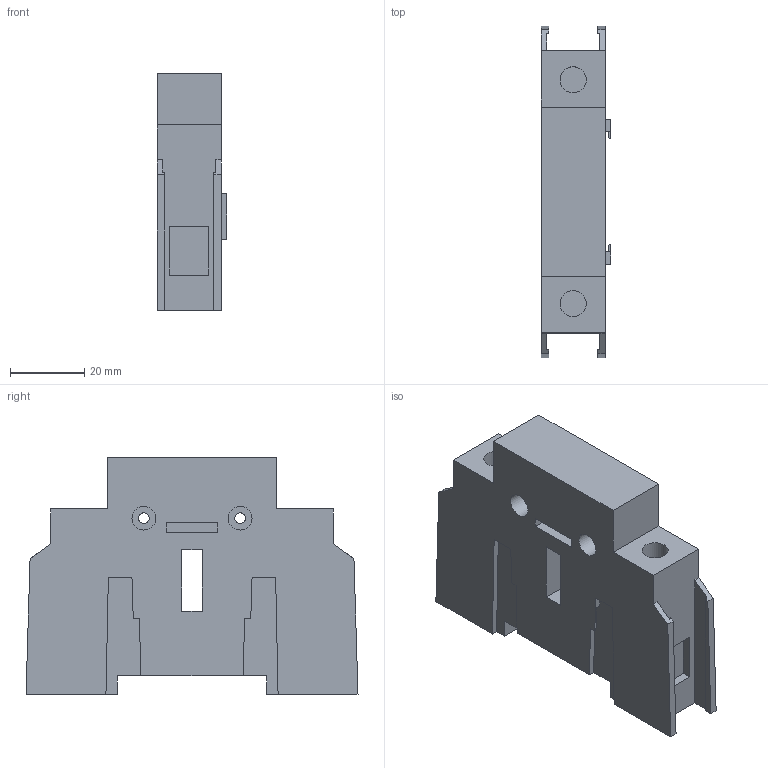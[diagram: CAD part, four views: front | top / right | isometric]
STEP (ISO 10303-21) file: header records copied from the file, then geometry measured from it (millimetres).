
FILE_DESCRIPTION (( 'STEP AP203' ), '1' );
FILE_NAME ('Ïîëþñ çàçåìëåíèÿ OptiSwitch DI-80-125 (äëÿ OptiSwitch DI-80-125-3_ñëåâà).STEP', '2023-03-26T20:42:11', ( 'Ïîëüçîâàòåëü' ), ( '' ), 'SwSTEP 2.0', 'SolidWorks 2018', '' );
FILE_SCHEMA (( 'CONFIG_CONTROL_DESIGN' ));
Length unit declared in the file: millimetre
Products named in the file (2): Ïîëþñ çàçåìëåíèÿ OptiSwitch DI-80-125 (äëÿ OptiSwitch DI-80-125-3_ñëåâà); Ïîëþñ çàçåìëåíèÿ OptiSwitch DI-80-125; Ïîëþñ íåéòðàëè OptiSwitch DI-80-125
Assembly tree (1 placements, depth 2):
  Ïîëþñ çàçåìëåíèÿ OptiSwitch DI-80-125 (äëÿ OptiSwitch DI-80-125-3_ñëåâà)
    Ïîëþñ çàçåìëåíèÿ OptiSwitch DI-80-125; Ïîëþñ íåéòðàëè OptiSwitch DI-80-125
Bounding box: 18.8 x 89.3 x 63.7 mm (x, y, z)
Volume: 69830.2 mm3; surface area: 17946.9 mm2
Topology: 1 solids, 1 shells, 102 faces, 268 edges, 178 vertices
Faces by surface type: plane 96, cylinder 6
Full cylindrical faces by diameter (mm): 2.9 x2, 6.4 x2, 7 x2
Entity records: 3266 total; most frequent: CARTESIAN_POINT 546, ORIENTED_EDGE 524, DIRECTION 486, EDGE_CURVE 262, VECTOR 250, LINE 250, VERTEX_POINT 178, EDGE_LOOP 124
